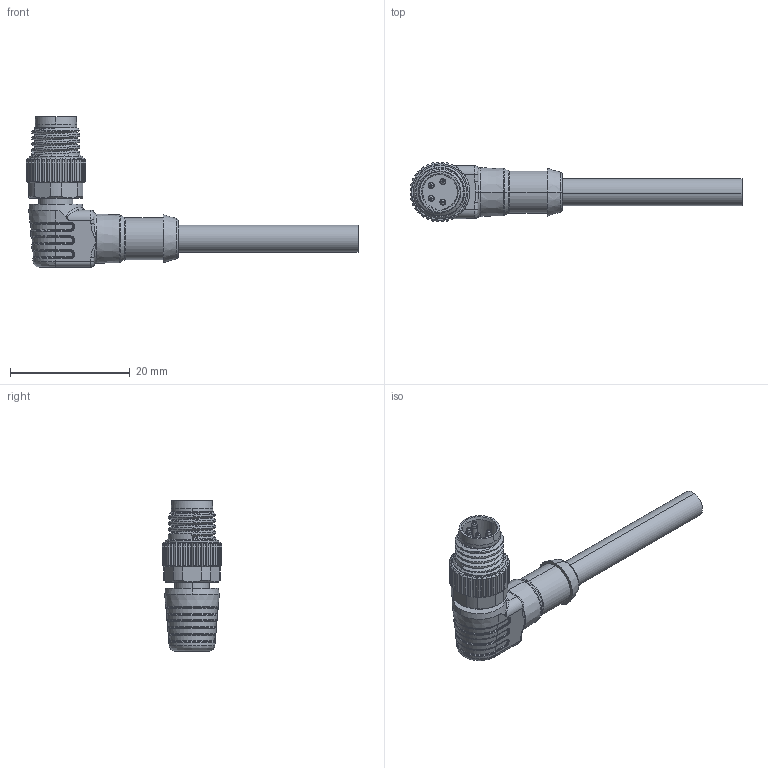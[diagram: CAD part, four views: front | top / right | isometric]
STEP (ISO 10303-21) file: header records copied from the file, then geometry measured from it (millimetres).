
FILE_DESCRIPTION (( 'STEP AP203' ), '1' );
FILE_NAME ('63T581-XXX.STEP', '2024-10-24T01:38:03', ( 'L' ), ( '' ), 'SwSTEP 2.0', 'SolidWorks 2019', '' );
FILE_SCHEMA (( 'CONFIG_CONTROL_DESIGN' ));
Length unit declared in the file: millimetre
Products named in the file (1): 63T581-XXX
Bounding box: 55.45 x 9.99 x 25.1 mm (x, y, z)
Volume: 2493.7 mm3; surface area: 2604.9 mm2
Topology: 1 solids, 1 shells, 874 faces, 2364 edges, 1486 vertices
Faces by surface type: plane 320, cylinder 233, bspline 178, cone 118, torus 25
Entity records: 35525 total; most frequent: CARTESIAN_POINT 16073, ORIENTED_EDGE 4710, DIRECTION 3186, EDGE_CURVE 2355, VERTEX_POINT 1486, AXIS2_PLACEMENT_3D 1209, B_SPLINE_CURVE_WITH_KNOTS 999, EDGE_LOOP 893
